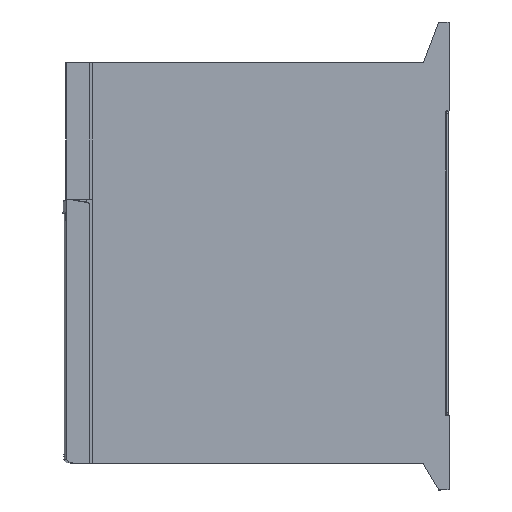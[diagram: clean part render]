
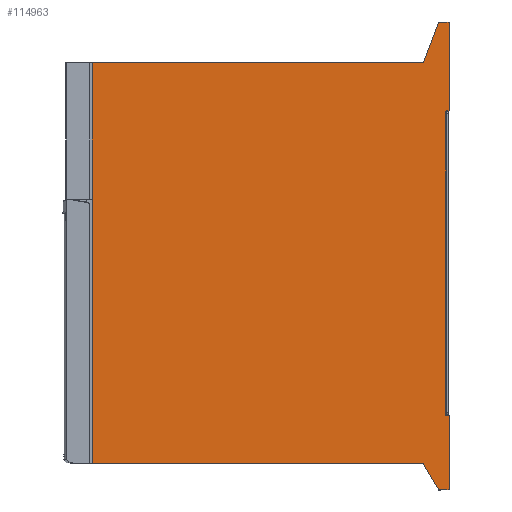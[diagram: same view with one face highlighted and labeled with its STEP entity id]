
A CAD part, left-side view. The second image highlights one B-rep face of the part: STEP entity #114963.
In plain terms, the highlighted planar face has unit normal (-1, 0, 0) as drawn and (1, 0, 0) by its records, which use the part's own axes.
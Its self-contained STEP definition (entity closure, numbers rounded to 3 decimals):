
#487 = CARTESIAN_POINT ( 'NONE',  ( 0., 220.03, 1.431 ) ) ;
#1409 = DIRECTION ( 'NONE',  ( 0., 0., -1. ) ) ;
#5369 = DIRECTION ( 'NONE',  ( 0., 0., -1. ) ) ;
#5511 = ORIENTED_EDGE ( 'NONE', *, *, #38134, .T. ) ;
#6164 = VERTEX_POINT ( 'NONE', #72143 ) ;
#6669 = DIRECTION ( 'NONE',  ( 0., 0., -1. ) ) ;
#6800 = ORIENTED_EDGE ( 'NONE', *, *, #63369, .T. ) ;
#6998 = ORIENTED_EDGE ( 'NONE', *, *, #28042, .F. ) ;
#7940 = VERTEX_POINT ( 'NONE', #103371 ) ;
#9095 = CARTESIAN_POINT ( 'NONE',  ( 0., -16.5, 6.5 ) ) ;
#11277 = CARTESIAN_POINT ( 'NONE',  ( 0., 0., 16. ) ) ;
#11692 = CARTESIAN_POINT ( 'NONE',  ( 0., 29.895, 0. ) ) ;
#12041 = CARTESIAN_POINT ( 'NONE',  ( 0., 30., 2. ) ) ;
#12388 = LINE ( 'NONE', #101281, #56982 ) ;
#12964 = ORIENTED_EDGE ( 'NONE', *, *, #64544, .T. ) ;
#13391 = LINE ( 'NONE', #19566, #111141 ) ;
#13513 = ORIENTED_EDGE ( 'NONE', *, *, #89981, .T. ) ;
#14105 = VERTEX_POINT ( 'NONE', #22736 ) ;
#16934 = LINE ( 'NONE', #99628, #89558 ) ;
#17991 = VECTOR ( 'NONE', #5369, 1000. ) ;
#18102 = LINE ( 'NONE', #11277, #68673 ) ;
#19410 = CARTESIAN_POINT ( 'NONE',  ( 0., 220.105, 0. ) ) ;
#19566 = CARTESIAN_POINT ( 'NONE',  ( 0., 0., 222.6 ) ) ;
#19671 = VECTOR ( 'NONE', #49933, 1000. ) ;
#20380 = LINE ( 'NONE', #39084, #73886 ) ;
#21507 = CARTESIAN_POINT ( 'NONE',  ( 0., -16.5, 0. ) ) ;
#21654 = CARTESIAN_POINT ( 'NONE',  ( 0., 219.431, 1.4 ) ) ;
#22736 = CARTESIAN_POINT ( 'NONE',  ( 0., 250.5, 16. ) ) ;
#24351 = ORIENTED_EDGE ( 'NONE', *, *, #102997, .T. ) ;
#26621 = VERTEX_POINT ( 'NONE', #9095 ) ;
#28042 = EDGE_CURVE ( 'NONE', #69633, #7940, #18102, .T. ) ;
#28778 = AXIS2_PLACEMENT_3D ( 'NONE', #120144, #63611, #6669 ) ;
#29542 = ORIENTED_EDGE ( 'NONE', *, *, #93078, .T. ) ;
#30073 = CARTESIAN_POINT ( 'NONE',  ( 0., 29.97, 1.431 ) ) ;
#30290 = VECTOR ( 'NONE', #122467, 1000. ) ;
#31035 = ORIENTED_EDGE ( 'NONE', *, *, #50846, .T. ) ;
#31189 = DIRECTION ( 'NONE',  ( 0., 0., -1. ) ) ;
#32210 = EDGE_CURVE ( 'NONE', #115767, #88274, #80682, .T. ) ;
#32593 = CIRCLE ( 'NONE', #28778, 0.6 ) ;
#32961 = CARTESIAN_POINT ( 'NONE',  ( 0., 0., 0. ) ) ;
#33612 = CARTESIAN_POINT ( 'NONE',  ( 0., 30.569, 2. ) ) ;
#33872 = EDGE_CURVE ( 'NONE', #26621, #38794, #105413, .T. ) ;
#34385 = LINE ( 'NONE', #48856, #109857 ) ;
#35004 = CARTESIAN_POINT ( 'NONE',  ( 0., 275.5, 6.5 ) ) ;
#37977 = VERTEX_POINT ( 'NONE', #47928 ) ;
#38134 = EDGE_CURVE ( 'NONE', #37977, #115767, #50216, .T. ) ;
#38245 = VERTEX_POINT ( 'NONE', #52002 ) ;
#38590 = VERTEX_POINT ( 'NONE', #93588 ) ;
#38794 = VERTEX_POINT ( 'NONE', #21507 ) ;
#38821 = CARTESIAN_POINT ( 'NONE',  ( 0., 250., 16. ) ) ;
#39084 = CARTESIAN_POINT ( 'NONE',  ( 0., 0., 2. ) ) ;
#43378 = PLANE ( 'NONE',  #104965 ) ;
#44218 = EDGE_CURVE ( 'NONE', #14105, #102607, #12388, .T. ) ;
#45663 = VERTEX_POINT ( 'NONE', #110417 ) ;
#47194 = EDGE_LOOP ( 'NONE', ( #95971, #99512, #13513, #58362, #29542, #86224, #5511, #60929, #12964, #66420, #99476, #109736, #31035, #6800, #24351, #6998 ) ) ;
#47928 = CARTESIAN_POINT ( 'NONE',  ( 0., 219.431, 2. ) ) ;
#48856 = CARTESIAN_POINT ( 'NONE',  ( 0., 0., 0. ) ) ;
#49933 = DIRECTION ( 'NONE',  ( 0., 0.052, 0.999 ) ) ;
#50216 = CIRCLE ( 'NONE', #81718, 0.6 ) ;
#50846 = EDGE_CURVE ( 'NONE', #102607, #38245, #88156, .T. ) ;
#51744 = VERTEX_POINT ( 'NONE', #33612 ) ;
#52002 = CARTESIAN_POINT ( 'NONE',  ( 0., 250., 222.6 ) ) ;
#54782 = LINE ( 'NONE', #73162, #101984 ) ;
#56982 = VECTOR ( 'NONE', #63383, 1000. ) ;
#58362 = ORIENTED_EDGE ( 'NONE', *, *, #96218, .T. ) ;
#60829 = LINE ( 'NONE', #35004, #83010 ) ;
#60929 = ORIENTED_EDGE ( 'NONE', *, *, #32210, .T. ) ;
#61577 = DIRECTION ( 'NONE',  ( 1., 0., 0. ) ) ;
#61719 = DIRECTION ( 'NONE',  ( 0., 0., 1. ) ) ;
#63369 = EDGE_CURVE ( 'NONE', #38245, #45663, #13391, .T. ) ;
#63383 = DIRECTION ( 'NONE',  ( 0., -1., 0. ) ) ;
#63611 = DIRECTION ( 'NONE',  ( -1., 0., 0. ) ) ;
#64544 = EDGE_CURVE ( 'NONE', #88274, #6164, #54782, .T. ) ;
#65568 = CARTESIAN_POINT ( 'NONE',  ( 0., 220.03, 1.431 ) ) ;
#66420 = ORIENTED_EDGE ( 'NONE', *, *, #100085, .F. ) ;
#68673 = VECTOR ( 'NONE', #77661, 1000. ) ;
#69633 = VERTEX_POINT ( 'NONE', #81011 ) ;
#71297 = CARTESIAN_POINT ( 'NONE',  ( 0., 250., 0. ) ) ;
#72143 = CARTESIAN_POINT ( 'NONE',  ( 0., 275.5, 0. ) ) ;
#73162 = CARTESIAN_POINT ( 'NONE',  ( 0., 0., 0. ) ) ;
#73886 = VECTOR ( 'NONE', #95710, 1000. ) ;
#74641 = CARTESIAN_POINT ( 'NONE',  ( 0., 275.5, 0. ) ) ;
#76398 = DIRECTION ( 'NONE',  ( 0., -1., 0. ) ) ;
#77661 = DIRECTION ( 'NONE',  ( 0., 1., 0. ) ) ;
#79831 = VECTOR ( 'NONE', #96056, 1000. ) ;
#80682 = LINE ( 'NONE', #65568, #30290 ) ;
#81011 = CARTESIAN_POINT ( 'NONE',  ( 0., -0.5, 16. ) ) ;
#81718 = AXIS2_PLACEMENT_3D ( 'NONE', #21654, #87898, #31189 ) ;
#83010 = VECTOR ( 'NONE', #110711, 1000. ) ;
#84077 = DIRECTION ( 'NONE',  ( 0., 0., -1. ) ) ;
#85228 = VECTOR ( 'NONE', #61719, 1000. ) ;
#86224 = ORIENTED_EDGE ( 'NONE', *, *, #108905, .T. ) ;
#86572 = CARTESIAN_POINT ( 'NONE',  ( 0., -0.5, 16. ) ) ;
#87898 = DIRECTION ( 'NONE',  ( -1., 0., 0. ) ) ;
#88156 = LINE ( 'NONE', #71297, #85228 ) ;
#88274 = VERTEX_POINT ( 'NONE', #19410 ) ;
#89558 = VECTOR ( 'NONE', #90135, 1000. ) ;
#89981 = EDGE_CURVE ( 'NONE', #38794, #122246, #16934, .T. ) ;
#90135 = DIRECTION ( 'NONE',  ( 0., 1., 0. ) ) ;
#93078 = EDGE_CURVE ( 'NONE', #103021, #51744, #32593, .T. ) ;
#93588 = CARTESIAN_POINT ( 'NONE',  ( 0., 275.5, 6.5 ) ) ;
#95213 = LINE ( 'NONE', #12041, #19671 ) ;
#95710 = DIRECTION ( 'NONE',  ( 0., 1., 0. ) ) ;
#95971 = ORIENTED_EDGE ( 'NONE', *, *, #118261, .T. ) ;
#96056 = DIRECTION ( 'NONE',  ( 0., -0.86, -0.511 ) ) ;
#96218 = EDGE_CURVE ( 'NONE', #122246, #103021, #95213, .T. ) ;
#99476 = ORIENTED_EDGE ( 'NONE', *, *, #117187, .T. ) ;
#99512 = ORIENTED_EDGE ( 'NONE', *, *, #33872, .T. ) ;
#99628 = CARTESIAN_POINT ( 'NONE',  ( 0., 0., 0. ) ) ;
#100085 = EDGE_CURVE ( 'NONE', #38590, #6164, #113761, .T. ) ;
#100206 = CARTESIAN_POINT ( 'NONE',  ( 0., -16.5, 0. ) ) ;
#101281 = CARTESIAN_POINT ( 'NONE',  ( 0., 0., 16. ) ) ;
#101489 = DIRECTION ( 'NONE',  ( 0., 1., 0. ) ) ;
#101984 = VECTOR ( 'NONE', #101489, 1000. ) ;
#102081 = FACE_OUTER_BOUND ( 'NONE', #47194, .T. ) ;
#102607 = VERTEX_POINT ( 'NONE', #38821 ) ;
#102997 = EDGE_CURVE ( 'NONE', #45663, #7940, #34385, .T. ) ;
#103021 = VERTEX_POINT ( 'NONE', #30073 ) ;
#103371 = CARTESIAN_POINT ( 'NONE',  ( 0., 0., 16. ) ) ;
#104965 = AXIS2_PLACEMENT_3D ( 'NONE', #32961, #61577, #109443 ) ;
#105413 = LINE ( 'NONE', #100206, #17991 ) ;
#107830 = LINE ( 'NONE', #86572, #79831 ) ;
#108905 = EDGE_CURVE ( 'NONE', #51744, #37977, #20380, .T. ) ;
#109443 = DIRECTION ( 'NONE',  ( 0., 0., -1. ) ) ;
#109736 = ORIENTED_EDGE ( 'NONE', *, *, #44218, .T. ) ;
#109857 = VECTOR ( 'NONE', #1409, 1000. ) ;
#110417 = CARTESIAN_POINT ( 'NONE',  ( 0., 0., 222.6 ) ) ;
#110711 = DIRECTION ( 'NONE',  ( 0., -0.935, 0.355 ) ) ;
#110761 = VECTOR ( 'NONE', #84077, 1000. ) ;
#111141 = VECTOR ( 'NONE', #76398, 1000. ) ;
#113761 = LINE ( 'NONE', #74641, #110761 ) ;
#114963 = ADVANCED_FACE ( 'NONE', ( #102081 ), #43378, .T. ) ;
#115767 = VERTEX_POINT ( 'NONE', #487 ) ;
#117187 = EDGE_CURVE ( 'NONE', #38590, #14105, #60829, .T. ) ;
#118261 = EDGE_CURVE ( 'NONE', #69633, #26621, #107830, .T. ) ;
#120144 = CARTESIAN_POINT ( 'NONE',  ( 0., 30.569, 1.4 ) ) ;
#122246 = VERTEX_POINT ( 'NONE', #11692 ) ;
#122467 = DIRECTION ( 'NONE',  ( 0., 0.052, -0.999 ) ) ;
